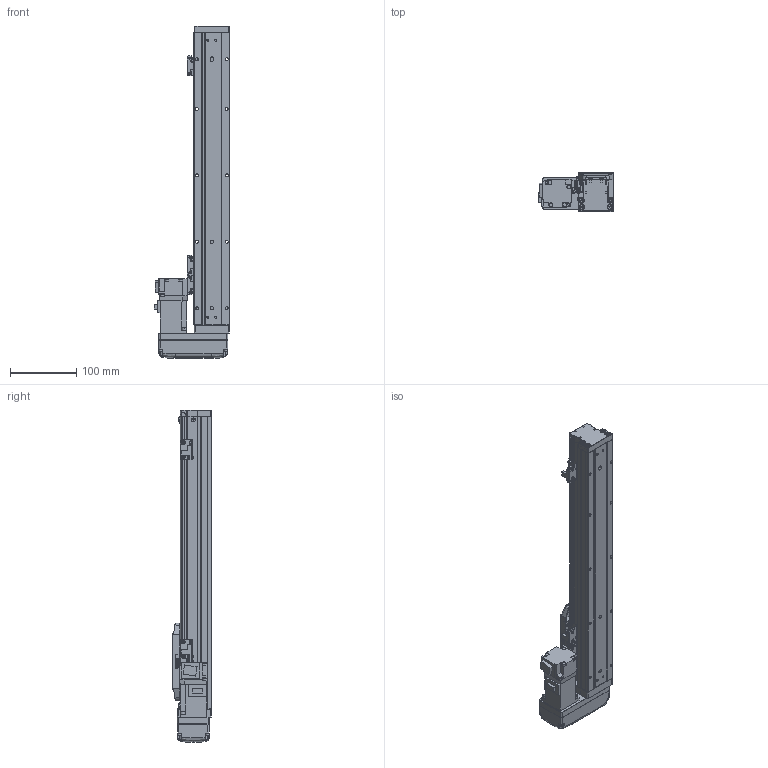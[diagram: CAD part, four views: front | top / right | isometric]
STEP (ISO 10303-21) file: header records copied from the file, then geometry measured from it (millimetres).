
FILE_DESCRIPTION (( 'STEP AP203' ), '1' );
FILE_NAME ('GTH5-300-BL-M10-C4.step', '2022-09-23T00:44:01', ( '微软用户' ), ( '微软中国' ), 'SwSTEP 2.0', 'SolidWorks 2020', '' );
FILE_SCHEMA (( 'CONFIG_CONTROL_DESIGN' ));
Length unit declared in the file: millimetre
Products named in the file (19): GTH50-023; HG-KR13; GBT 70.1-M3℅6; GTH50-027-1_BTHA50-027-2; GTH50-006; BTH-M3X5X6; GBT96.1-2002 3×0.8; GTH50-026; GTH50-004; GTH50-001_300; GTH50-024; GTH5-300-BL-M10-C4; GBT 70.3-M3℅6; GBT 70.1-M4×16; GBT 70.1-M2.5×6; GTH50-003; GTH50-028; GTH50-013; GTH50-022-1
Assembly tree (57 placements, depth 2):
  GTH5-300-BL-M10-C4
    GTH50-006
    GTH50-004
    GBT 70.3-M3℅6  x4
    BTH-M3X5X6  x8
    GTH50-001_300
    GBT 70.1-M4×16  x8
    GTH50-003
    GTH50-013
    GTH50-023  x3
    GBT 70.1-M3℅6  x12
    GBT96.1-2002 3×0.8  x6
    GTH50-024  x3
    GBT 70.1-M2.5×6  x2
    GTH50-028  x2
    GTH50-022-1
    HG-KR13
    GTH50-027-1_BTHA50-027-2
    GTH50-026
Bounding box: 113.8 x 60 x 500 mm (x, y, z)
Volume: 1203663.5 mm3; surface area: 231709.5 mm2
Topology: 59 solids, 59 shells, 2148 faces, 4980 edges, 3052 vertices
Faces by surface type: plane 1142, cylinder 577, cone 219, torus 162, bspline 40, sphere 8
Entity records: 39716 total; most frequent: CARTESIAN_POINT 7875, DIRECTION 6101, ORIENTED_EDGE 5874, EDGE_CURVE 2937, AXIS2_PLACEMENT_3D 2116, LINE 1869, VECTOR 1869, VERTEX_POINT 1854
